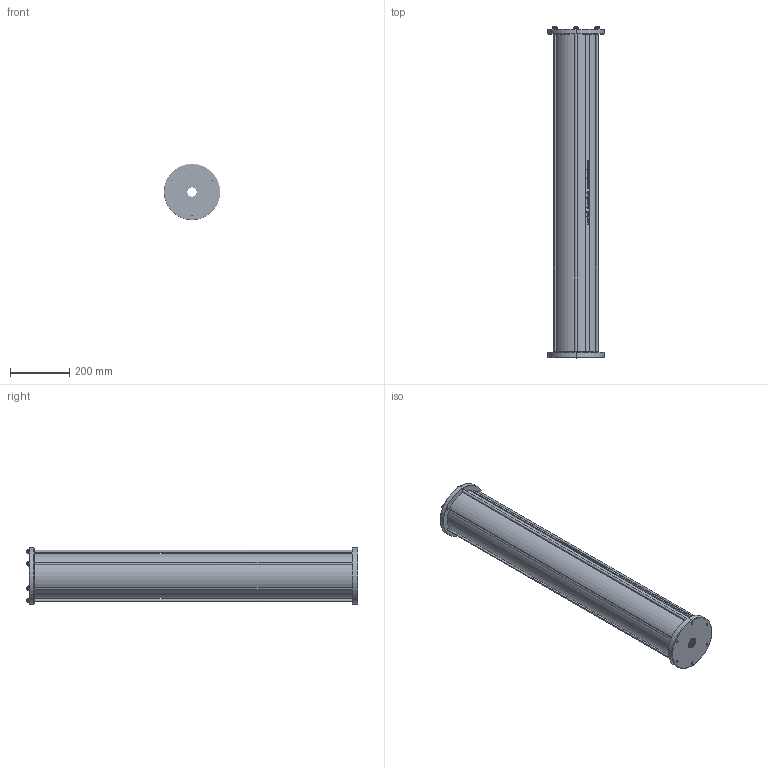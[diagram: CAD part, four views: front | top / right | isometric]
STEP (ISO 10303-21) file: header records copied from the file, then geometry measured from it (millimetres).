
FILE_DESCRIPTION (( 'STEP AP214' ), '1' );
FILE_NAME ('15.0LTR-C-11-34.STEP', '2025-08-19T14:18:18', ( '' ), ( '' ), 'SwSTEP 2.0', 'SolidWorks 2024', '' );
FILE_SCHEMA (( 'AUTOMOTIVE_DESIGN' ));
Length unit declared in the file: millimetre
Products named in the file (1): 15.0LTR-C-11-34
Bounding box: 190 x 1121 x 190 mm (x, y, z)
Volume: 3796763 mm3; surface area: 1359788 mm2
Topology: 22 solids, 22 shells, 1846 faces, 4808 edges, 3088 vertices
Faces by surface type: cylinder 692, plane 489, bspline 397, cone 136, sphere 108, torus 24
Entity records: 144841 total; most frequent: CARTESIAN_POINT 85077, ORIENTED_EDGE 9616, DIRECTION 6300, EDGE_CURVE 4808, VERTEX_POINT 3088, AXIS2_PLACEMENT_3D 2158, LINE 1984, VECTOR 1984
